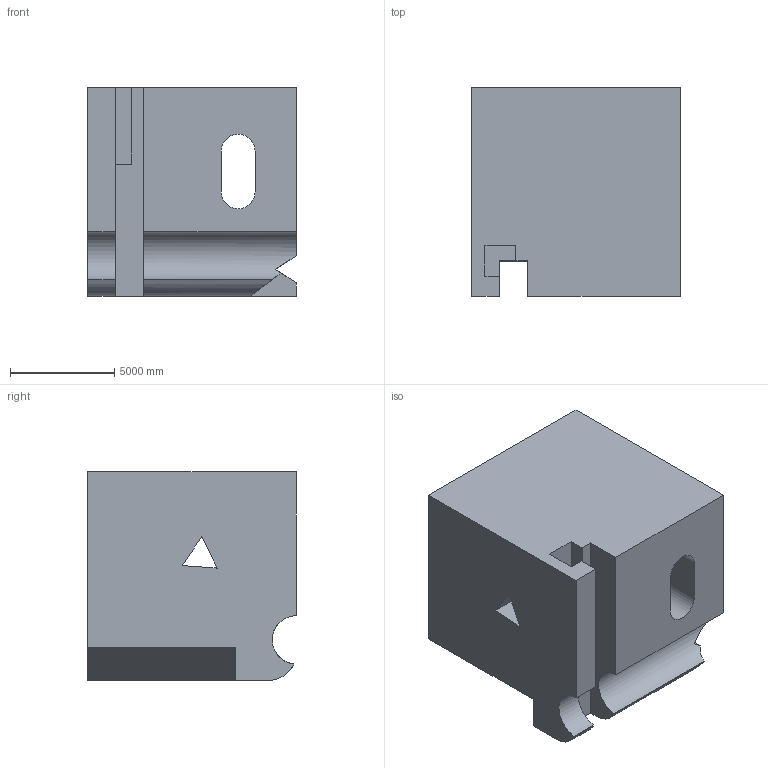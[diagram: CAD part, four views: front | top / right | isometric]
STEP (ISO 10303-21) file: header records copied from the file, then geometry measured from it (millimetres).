
FILE_DESCRIPTION (( 'STEP AP203' ), '1' );
FILE_NAME ('361.STEP', '2022-09-07T13:11:23', ( 'user' ), ( '' ), 'SwSTEP 2.0', 'SolidWorks 2021', '' );
FILE_SCHEMA (( 'CONFIG_CONTROL_DESIGN' ));
Length unit declared in the file: centimetre
Products named in the file (1): 361
Bounding box: 10000 x 10000 x 10000 mm (x, y, z)
Volume: 864600546638.3 mm3; surface area: 747044858.4 mm2
Topology: 1 solids, 1 shells, 37 faces, 105 edges, 70 vertices
Faces by surface type: plane 30, cylinder 7
Entity records: 1281 total; most frequent: CARTESIAN_POINT 225, ORIENTED_EDGE 210, DIRECTION 190, EDGE_CURVE 105, LINE 88, VECTOR 88, VERTEX_POINT 70, AXIS2_PLACEMENT_3D 51
